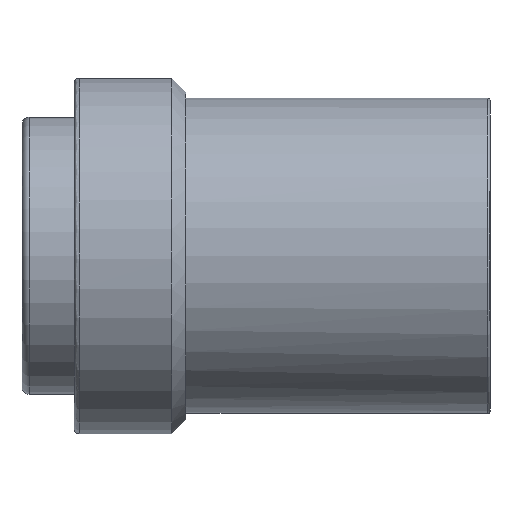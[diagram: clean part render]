
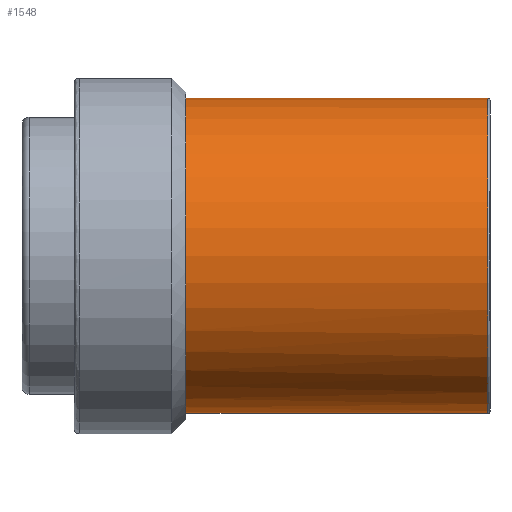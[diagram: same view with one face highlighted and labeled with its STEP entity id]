
A CAD part, left-side view. The second image highlights one B-rep face of the part: STEP entity #1548.
In plain terms, the highlighted cylindrical face has radius 8.433 mm (diameter 16.866 mm), a full revolution.
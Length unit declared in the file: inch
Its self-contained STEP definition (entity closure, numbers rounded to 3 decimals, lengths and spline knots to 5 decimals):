
#70=B_SPLINE_CURVE_WITH_KNOTS('',3,(#2724,#2725,#2726,#2727,#2728,#2729,
#2730,#2731,#2732,#2733,#2734,#2735,#2736,#2737),.UNSPECIFIED.,.F.,.F.,
(4,2,2,2,2,2,4),(0.14857,0.16937,0.33875,
0.52881,0.71888,0.87824,0.91075),
 .UNSPECIFIED.);
#75=B_SPLINE_CURVE_WITH_KNOTS('',3,(#2809,#2810,#2811,#2812,#2813,#2814,
#2815,#2816,#2817,#2818,#2819,#2820,#2821,#2822,#2823,#2824,#2825,#2826),
 .UNSPECIFIED.,.F.,.F.,(4,2,2,2,2,2,2,2,4),(0.10827,0.16024,
0.32048,0.48031,0.64013,0.79996,
0.95979,1.12003,1.28027),.UNSPECIFIED.);
#136=LINE('',#2827,#198);
#137=LINE('',#2829,#199);
#198=VECTOR('',#2100,0.3937);
#199=VECTOR('',#2101,0.332);
#245=CYLINDRICAL_SURFACE('',#1733,0.332);
#314=FACE_OUTER_BOUND('',#407,.T.);
#407=EDGE_LOOP('',(#1192,#1193,#1194,#1195,#1196,#1197,#1198,#1199,#1200,
#1201));
#514=CIRCLE('',#1722,0.332);
#519=CIRCLE('',#1731,0.332);
#520=CIRCLE('',#1732,0.332);
#521=CIRCLE('',#1734,0.332);
#522=CIRCLE('',#1735,0.332);
#668=VERTEX_POINT('',#2721);
#669=VERTEX_POINT('',#2723);
#675=VERTEX_POINT('',#2773);
#680=VERTEX_POINT('',#2802);
#681=VERTEX_POINT('',#2804);
#682=VERTEX_POINT('',#2808);
#683=VERTEX_POINT('',#2828);
#684=VERTEX_POINT('',#2830);
#854=EDGE_CURVE('',#669,#668,#70,.T.);
#863=EDGE_CURVE('',#668,#675,#514,.T.);
#871=EDGE_CURVE('',#669,#680,#519,.T.);
#872=EDGE_CURVE('',#680,#681,#520,.T.);
#874=EDGE_CURVE('',#675,#682,#75,.T.);
#875=EDGE_CURVE('',#682,#681,#136,.T.);
#876=EDGE_CURVE('',#680,#683,#137,.T.);
#877=EDGE_CURVE('',#684,#683,#521,.T.);
#878=EDGE_CURVE('',#683,#684,#522,.T.);
#1192=ORIENTED_EDGE('',*,*,#854,.T.);
#1193=ORIENTED_EDGE('',*,*,#863,.T.);
#1194=ORIENTED_EDGE('',*,*,#874,.T.);
#1195=ORIENTED_EDGE('',*,*,#875,.T.);
#1196=ORIENTED_EDGE('',*,*,#872,.F.);
#1197=ORIENTED_EDGE('',*,*,#876,.T.);
#1198=ORIENTED_EDGE('',*,*,#877,.F.);
#1199=ORIENTED_EDGE('',*,*,#878,.F.);
#1200=ORIENTED_EDGE('',*,*,#876,.F.);
#1201=ORIENTED_EDGE('',*,*,#871,.F.);
#1548=ADVANCED_FACE('',(#314),#245,.T.);
#1722=AXIS2_PLACEMENT_3D('',#2775,#2074,#2075);
#1731=AXIS2_PLACEMENT_3D('',#2803,#2093,#2094);
#1732=AXIS2_PLACEMENT_3D('',#2805,#2095,#2096);
#1733=AXIS2_PLACEMENT_3D('',#2807,#2098,#2099);
#1734=AXIS2_PLACEMENT_3D('',#2831,#2102,#2103);
#1735=AXIS2_PLACEMENT_3D('',#2832,#2104,#2105);
#2074=DIRECTION('center_axis',(-0.001,-1.,
0.));
#2075=DIRECTION('ref_axis',(-0.906,0.001,0.423));
#2093=DIRECTION('center_axis',(0.,1.,0.));
#2094=DIRECTION('ref_axis',(1.,0.,0.));
#2095=DIRECTION('center_axis',(0.,1.,0.));
#2096=DIRECTION('ref_axis',(1.,0.,0.));
#2098=DIRECTION('center_axis',(0.,1.,0.));
#2099=DIRECTION('ref_axis',(0.,0.,1.));
#2100=DIRECTION('',(0.,1.,0.));
#2101=DIRECTION('',(0.,-1.,0.));
#2102=DIRECTION('center_axis',(0.,-1.,0.));
#2103=DIRECTION('ref_axis',(0.,0.,-1.));
#2104=DIRECTION('center_axis',(0.,-1.,0.));
#2105=DIRECTION('ref_axis',(0.,0.,-1.));
#2721=CARTESIAN_POINT('',(0.1772,0.54881,0.28076));
#2723=CARTESIAN_POINT('',(0.32634,0.64,0.06103));
#2724=CARTESIAN_POINT('Ctrl Pts',(0.32634,0.64,0.06103));
#2725=CARTESIAN_POINT('Ctrl Pts',(0.32607,0.63761,0.06248));
#2726=CARTESIAN_POINT('Ctrl Pts',(0.32578,0.63524,0.064));
#2727=CARTESIAN_POINT('Ctrl Pts',(0.32286,0.61396,0.07847));
#2728=CARTESIAN_POINT('Ctrl Pts',(0.31846,0.59722,0.09549));
#2729=CARTESIAN_POINT('Ctrl Pts',(0.30577,0.56871,0.13086));
#2730=CARTESIAN_POINT('Ctrl Pts',(0.29599,0.55526,0.15241));
#2731=CARTESIAN_POINT('Ctrl Pts',(0.27005,0.53655,0.19472));
#2732=CARTESIAN_POINT('Ctrl Pts',(0.25381,0.53134,0.21546));
#2733=CARTESIAN_POINT('Ctrl Pts',(0.2216,0.53134,0.2481));
#2734=CARTESIAN_POINT('Ctrl Pts',(0.20442,0.53512,0.26241));
#2735=CARTESIAN_POINT('Ctrl Pts',(0.18404,0.54496,0.27635));
#2736=CARTESIAN_POINT('Ctrl Pts',(0.1806,0.54681,0.27861));
#2737=CARTESIAN_POINT('Ctrl Pts',(0.1772,0.54881,0.28076));
#2773=CARTESIAN_POINT('',(0.15821,0.54882,0.29188));
#2775=CARTESIAN_POINT('Origin',(0.,0.54884,0.));
#2802=CARTESIAN_POINT('',(0.,0.64,-0.332));
#2803=CARTESIAN_POINT('Origin',(0.,0.64,0.));
#2804=CARTESIAN_POINT('',(-0.164,0.64,0.28867));
#2805=CARTESIAN_POINT('Origin',(0.,0.64,0.));
#2807=CARTESIAN_POINT('Origin',(0.,0.32,0.));
#2808=CARTESIAN_POINT('',(-0.164,0.592,0.28867));
#2809=CARTESIAN_POINT('Ctrl Pts',(0.15821,0.54882,0.29188));
#2810=CARTESIAN_POINT('Ctrl Pts',(0.15635,0.54199,0.29289));
#2811=CARTESIAN_POINT('Ctrl Pts',(0.15403,0.53526,0.29412));
#2812=CARTESIAN_POINT('Ctrl Pts',(0.14289,0.5086,0.29983));
#2813=CARTESIAN_POINT('Ctrl Pts',(0.13034,0.49041,0.30573));
#2814=CARTESIAN_POINT('Ctrl Pts',(0.10162,0.46169,0.31643));
#2815=CARTESIAN_POINT('Ctrl Pts',(0.08342,0.44912,
0.322));
#2816=CARTESIAN_POINT('Ctrl Pts',(0.04311,0.43227,
0.32983));
#2817=CARTESIAN_POINT('Ctrl Pts',(0.02097,0.428,0.332));
#2818=CARTESIAN_POINT('Ctrl Pts',(-0.02097,0.428,0.332));
#2819=CARTESIAN_POINT('Ctrl Pts',(-0.04311,0.43227,
0.32983));
#2820=CARTESIAN_POINT('Ctrl Pts',(-0.08342,0.44912,
0.322));
#2821=CARTESIAN_POINT('Ctrl Pts',(-0.10162,0.46169,
0.31643));
#2822=CARTESIAN_POINT('Ctrl Pts',(-0.13034,0.49041,0.30573));
#2823=CARTESIAN_POINT('Ctrl Pts',(-0.14289,0.5086,
0.29983));
#2824=CARTESIAN_POINT('Ctrl Pts',(-0.15972,0.54886,
0.29121));
#2825=CARTESIAN_POINT('Ctrl Pts',(-0.164,0.57097,0.28867));
#2826=CARTESIAN_POINT('Ctrl Pts',(-0.164,0.592,0.28867));
#2827=CARTESIAN_POINT('',(-0.164,0.32,0.28867));
#2828=CARTESIAN_POINT('',(0.,0.005,-0.332));
#2829=CARTESIAN_POINT('',(0.,0.32,-0.332));
#2830=CARTESIAN_POINT('',(0.,0.005,0.332));
#2831=CARTESIAN_POINT('Origin',(0.,0.005,0.));
#2832=CARTESIAN_POINT('Origin',(0.,0.005,0.));
